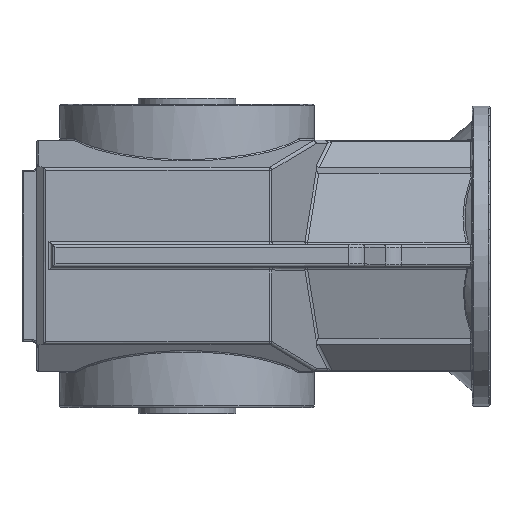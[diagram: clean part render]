
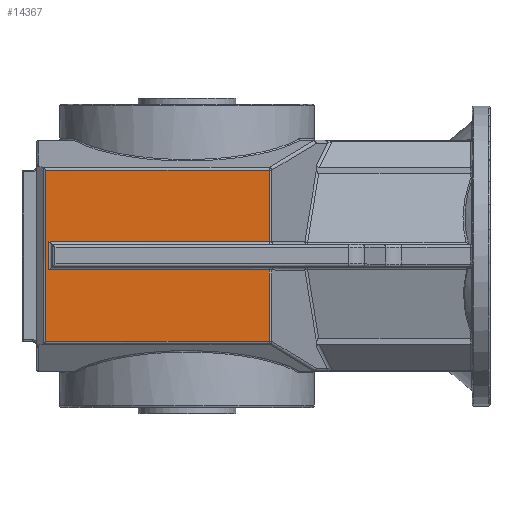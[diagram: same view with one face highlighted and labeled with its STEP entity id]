
A CAD part, top view. The second image highlights one B-rep face of the part: STEP entity #14367.
In plain terms, the highlighted planar face has unit normal (0, 0, 1).
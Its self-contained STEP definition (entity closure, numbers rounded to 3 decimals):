
#13218=CARTESIAN_POINT('',(11.311,-9.5,281.0));
#13219=VERTEX_POINT('',#13218);
#13519=CARTESIAN_POINT('',(11.311,9.5,281.0));
#13520=VERTEX_POINT('',#13519);
#13806=CARTESIAN_POINT('',(11.311,-57.061,281.0));
#13807=VERTEX_POINT('',#13806);
#13841=CARTESIAN_POINT('',(-137.672,-57.061,281.0));
#13842=VERTEX_POINT('',#13841);
#13843=CARTESIAN_POINT('',(11.311,-57.061,281.0));
#13844=DIRECTION('',(-1.0,0.0,0.0));
#13845=VECTOR('',#13844,148.982);
#13846=LINE('',#13843,#13845);
#13847=EDGE_CURVE('',#13807,#13842,#13846,.T.);
#13890=CARTESIAN_POINT('',(11.311,57.061,281.0));
#13891=VERTEX_POINT('',#13890);
#13931=CARTESIAN_POINT('',(11.311,57.061,281.0));
#13932=DIRECTION('',(0.0,-1.0,0.0));
#13933=VECTOR('',#13932,47.561);
#13934=LINE('',#13931,#13933);
#13935=EDGE_CURVE('',#13891,#13520,#13934,.T.);
#13962=CARTESIAN_POINT('',(-137.672,57.061,281.0));
#13963=VERTEX_POINT('',#13962);
#13964=CARTESIAN_POINT('',(-137.672,57.061,281.0));
#13965=DIRECTION('',(1.0,0.0,0.0));
#13966=VECTOR('',#13965,148.982);
#13967=LINE('',#13964,#13966);
#13968=EDGE_CURVE('',#13963,#13891,#13967,.T.);
#14005=CARTESIAN_POINT('',(-137.672,-57.061,281.0));
#14006=DIRECTION('',(0.0,1.0,0.0));
#14007=VECTOR('',#14006,114.123);
#14008=LINE('',#14005,#14007);
#14009=EDGE_CURVE('',#13842,#13963,#14008,.T.);
#14030=CARTESIAN_POINT('',(11.311,-9.5,281.0));
#14031=DIRECTION('',(0.0,-1.0,0.0));
#14032=VECTOR('',#14031,47.561);
#14033=LINE('',#14030,#14032);
#14034=EDGE_CURVE('',#13219,#13807,#14033,.T.);
#14091=CARTESIAN_POINT('',(-135.5,9.5,281.0));
#14092=VERTEX_POINT('',#14091);
#14100=CARTESIAN_POINT('',(-135.5,-9.5,281.0));
#14101=VERTEX_POINT('',#14100);
#14102=CARTESIAN_POINT('',(-135.5,9.5,281.0));
#14103=DIRECTION('',(0.0,-1.0,0.0));
#14104=VECTOR('',#14103,19.0);
#14105=LINE('',#14102,#14104);
#14106=EDGE_CURVE('',#14092,#14101,#14105,.T.);
#14125=CARTESIAN_POINT('',(11.311,9.5,281.0));
#14126=DIRECTION('',(-1.0,0.0,0.0));
#14127=VECTOR('',#14126,146.811);
#14128=LINE('',#14125,#14127);
#14129=EDGE_CURVE('',#13520,#14092,#14128,.T.);
#14140=CARTESIAN_POINT('',(-135.5,-9.5,281.0));
#14141=DIRECTION('',(1.0,0.0,0.0));
#14142=VECTOR('',#14141,146.811);
#14143=LINE('',#14140,#14142);
#14144=EDGE_CURVE('',#14101,#13219,#14143,.T.);
#14352=CARTESIAN_POINT('',(-138.5,0.,281.0));
#14353=DIRECTION('',(0.0,0.0,1.0));
#14354=DIRECTION('',(1.0,0.0,0.0));
#14355=AXIS2_PLACEMENT_3D('',#14352,#14353,#14354);
#14356=PLANE('',#14355);
#14357=ORIENTED_EDGE('',*,*,#14106,.F.);
#14358=ORIENTED_EDGE('',*,*,#14129,.F.);
#14359=ORIENTED_EDGE('',*,*,#13935,.F.);
#14360=ORIENTED_EDGE('',*,*,#13968,.F.);
#14361=ORIENTED_EDGE('',*,*,#14009,.F.);
#14362=ORIENTED_EDGE('',*,*,#13847,.F.);
#14363=ORIENTED_EDGE('',*,*,#14034,.F.);
#14364=ORIENTED_EDGE('',*,*,#14144,.F.);
#14365=EDGE_LOOP('',(#14357,#14358,#14359,#14360,#14361,#14362,#14363,#14364));
#14366=FACE_OUTER_BOUND('',#14365,.T.);
#14367=ADVANCED_FACE('',(#14366),#14356,.T.);
